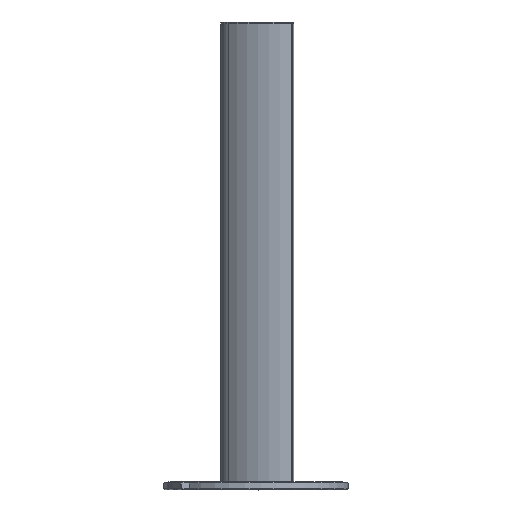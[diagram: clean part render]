
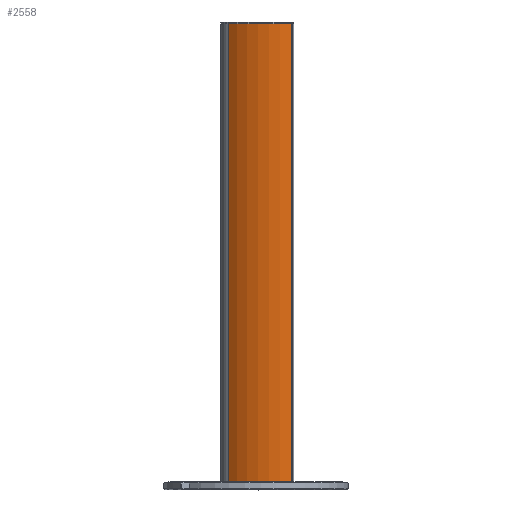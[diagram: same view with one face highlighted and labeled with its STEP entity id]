
A CAD part, top view. The second image highlights one B-rep face of the part: STEP entity #2558.
In plain terms, the highlighted cylindrical face has radius 79.059 mm (diameter 158.118 mm), a partial arc.
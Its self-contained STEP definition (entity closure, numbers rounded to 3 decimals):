
#72=CARTESIAN_POINT('',(24.886,-235.,-29.268));
#73=DIRECTION('',(0.,1.,0.));
#74=DIRECTION('',(-0.694,0.,0.72));
#75=AXIS2_PLACEMENT_3D('',#72,#73,#74);
#646=DIRECTION('',(0.,1.,0.));
#647=VECTOR('',#646,470.);
#648=CARTESIAN_POINT('',(35.448,-235.,49.083));
#649=LINE('',#648,#647);
#650=DIRECTION('',(0.,1.,0.));
#651=VECTOR('',#650,470.);
#652=CARTESIAN_POINT('',(-30.018,-235.,27.617));
#653=LINE('',#652,#651);
#1015=CARTESIAN_POINT('',(24.886,235.,-29.268));
#1016=DIRECTION('',(0.,1.,0.));
#1017=DIRECTION('',(-0.694,0.,0.72));
#1018=AXIS2_PLACEMENT_3D('',#1015,#1016,#1017);
#1116=CARTESIAN_POINT('',(-30.018,-235.,27.617));
#1117=VERTEX_POINT('',#1116);
#1118=CARTESIAN_POINT('',(35.448,-235.,49.083));
#1119=VERTEX_POINT('',#1118);
#1282=CARTESIAN_POINT('',(-30.018,235.,27.617));
#1283=VERTEX_POINT('',#1282);
#1284=CARTESIAN_POINT('',(35.448,235.,49.083));
#1285=VERTEX_POINT('',#1284);
#2545=CARTESIAN_POINT('',(24.886,-235.,-29.268));
#2546=DIRECTION('',(0.,1.,0.));
#2547=DIRECTION('',(1.,0.,0.));
#2548=AXIS2_PLACEMENT_3D('',#2545,#2546,#2547);
#2549=CYLINDRICAL_SURFACE('',#2548,79.059);
#2550=ORIENTED_EDGE('',*,*,#1453,.F.);
#2552=ORIENTED_EDGE('',*,*,#2551,.T.);
#2554=ORIENTED_EDGE('',*,*,#2553,.T.);
#2555=ORIENTED_EDGE('',*,*,#2537,.F.);
#2556=EDGE_LOOP('',(#2550,#2552,#2554,#2555));
#2557=FACE_OUTER_BOUND('',#2556,.F.);
#2558=ADVANCED_FACE('',(#2557),#2549,.T.);
#76=CIRCLE('',#75,79.059);
#1019=CIRCLE('',#1018,79.059);
#1453=EDGE_CURVE('',#1117,#1119,#76,.T.);
#2537=EDGE_CURVE('',#1119,#1285,#649,.T.);
#2551=EDGE_CURVE('',#1117,#1283,#653,.T.);
#2553=EDGE_CURVE('',#1283,#1285,#1019,.T.);
